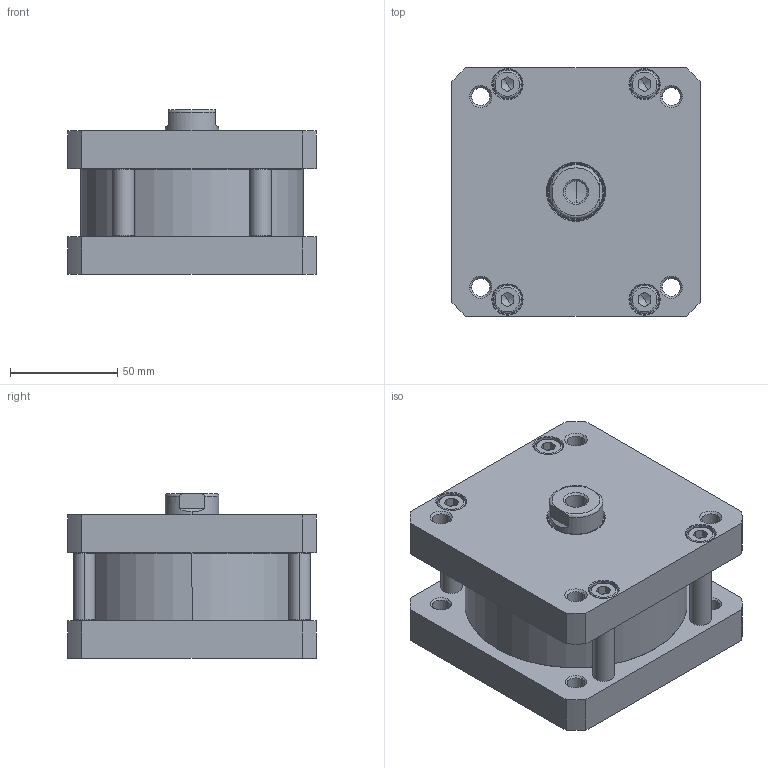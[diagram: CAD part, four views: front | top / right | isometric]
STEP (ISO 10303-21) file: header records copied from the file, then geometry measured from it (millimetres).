
FILE_DESCRIPTION(('STEP AP203'),'1');
FILE_NAME('84M100G000.stp','2022-05-30T09:09:36',(' '),(' '),'Spatial InterOp 3D',' ',' ');
FILE_SCHEMA(('CONFIG_CONTROL_DESIGN'));
Length unit declared in the file: metre
Products named in the file (6): 84M100G000; CORPO-000; STELO-000; TA; TIRANTE-000; TP
Assembly tree (8 placements, depth 2):
  84M100G000
    CORPO-000
    STELO-000
    TA
    TIRANTE-000  x4
    TP
Bounding box: 116 x 116 x 77 mm (x, y, z)
Volume: 494490.5 mm3; surface area: 114014.4 mm2
Topology: 8 solids, 17 shells, 401 faces, 952 edges, 579 vertices
Faces by surface type: cone 160, cylinder 114, plane 103, torus 24
Entity records: 11502 total; most frequent: CARTESIAN_POINT 2669, DIRECTION 1898, ORIENTED_EDGE 1692, EDGE_CURVE 846, AXIS2_PLACEMENT_3D 764, VERTEX_POINT 531, EDGE_LOOP 419, CIRCLE 392
